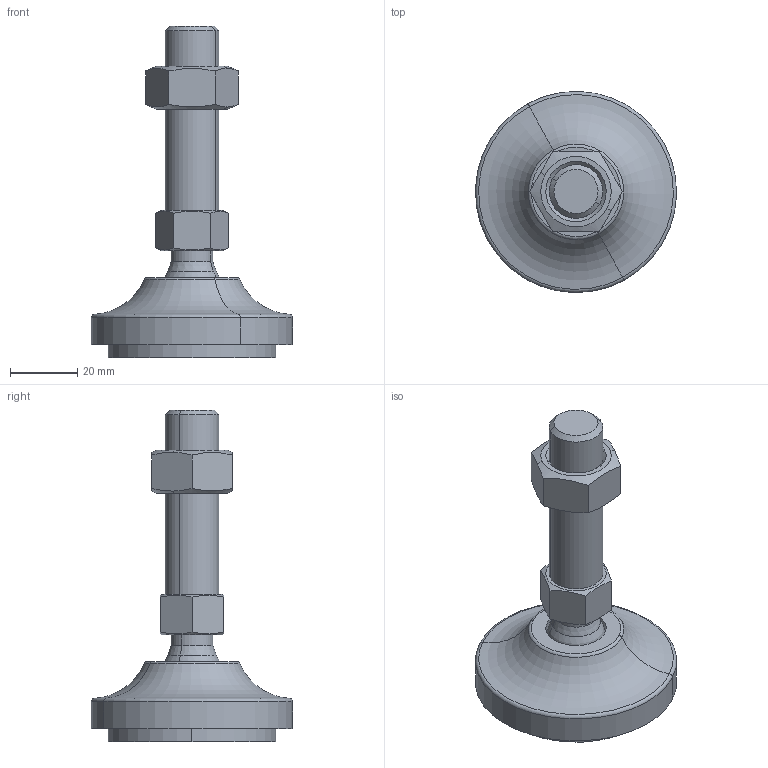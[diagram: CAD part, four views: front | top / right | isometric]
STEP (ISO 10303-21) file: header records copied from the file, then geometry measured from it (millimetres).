
FILE_DESCRIPTION(('CATIA V5 STEP Exchange'),'2;1');
FILE_NAME('C:\Users\ALI OZGUN\Desktop\alhan\saplama2\560601610AV.stp','2017-09-21T10:29:58+00:00',('none'),('none'),'CATIA Version 5 Release 21 GA (IN-10)','CATIA V5 STEP AP203','none');
FILE_SCHEMA(('CONFIG_CONTROL_DESIGN'));
Length unit declared in the file: millimetre
Products named in the file (1): 560601610AV
Bounding box: 59.98 x 59.98 x 99 mm (x, y, z)
Volume: 64349.4 mm3; surface area: 21372.5 mm2
Topology: 4 solids, 4 shells, 64 faces, 142 edges, 87 vertices
Faces by surface type: plane 22, cylinder 16, cone 16, torus 6, revolution 2, sphere 2
Entity records: 1931 total; most frequent: CARTESIAN_POINT 623, ORIENTED_EDGE 280, DIRECTION 198, EDGE_CURVE 140, AXIS2_PLACEMENT_3D 107, VERTEX_POINT 87, EDGE_LOOP 71, ADVANCED_FACE 64
